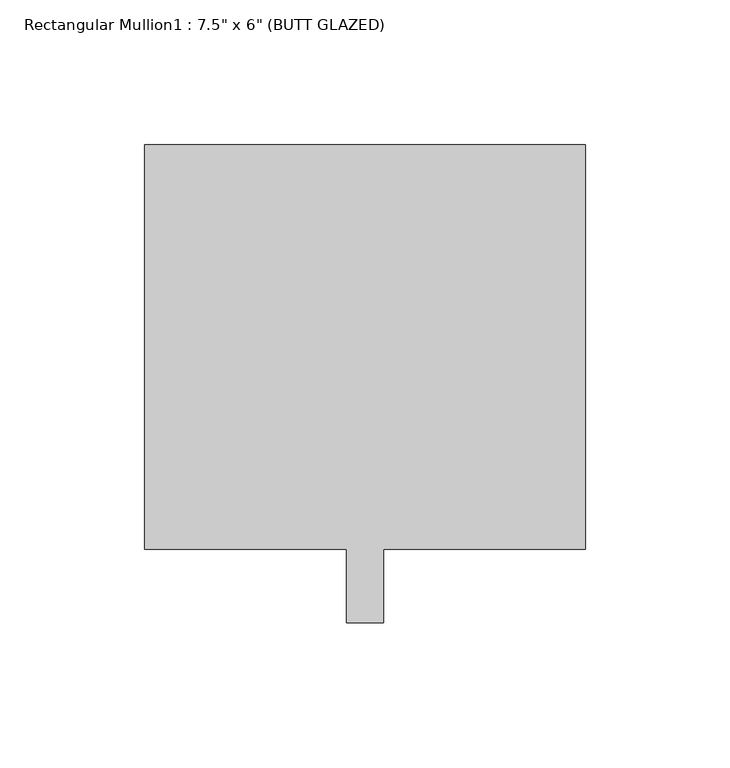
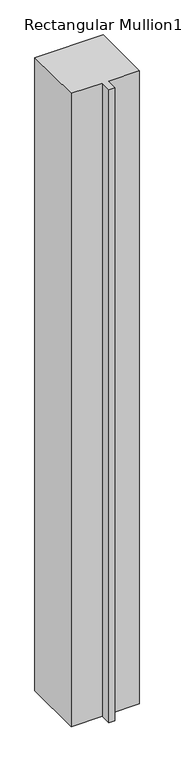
"""IFC4 building model written with IfcOpenShell, lengths in millimetres: member geometry."""

from ifc_helpers import new_model, si_unit, frame, origin, place, context, project, spatial, polyline, outline, extrude, source, transform, mapped, element, save


def member_72650cf5(model_context):
    return source(origin(), model_context, "Body", "SweptSolid", [
        extrude(outline(polyline([(76.2, 165.1), (76.2, 25.4), (6.35, 25.4), (6.35, 0.0), (-6.35, 0.0), (-6.35, 25.4), (-76.2, 25.4), (-76.2, 165.1), (76.2, 165.1)])), frame((0.0, 0.0, -1492.25), z_axis=(0.0, 0.0, 1.0), x_axis=(1.0, 0.0, 0.0)), (0.0, 0.0, 1.0), 1492.25),
    ])


if __name__ == "__main__":
    model = new_model("IFC4")
    model_context = context("Model", 3, world=origin())
    ifc_project = project(units=[si_unit("LENGTHUNIT", "METRE", prefix="MILLI")], contexts=[model_context])
    site = spatial("IfcSite", under=ifc_project)
    building = spatial("IfcBuilding", under=site)
    placement = place(None, origin())
    member_shape = member_72650cf5(model_context)
    element("IfcMember", 1, ObjectType="Rectangular Mullion1 : 7.5\" x 6\" (BUTT GLAZED)", at=placement, inside=building, context=model_context, shape_type="MappedRepresentation", body=[
        mapped(member_shape, transform((0.0, 0.0, 0.0), x_axis=(1.0, 0.0, 0.0), y_axis=(0.0, 1.0, 0.0), z_axis=(0.0, 0.0, 1.0))),
    ])
    save(model, "model.ifc")
